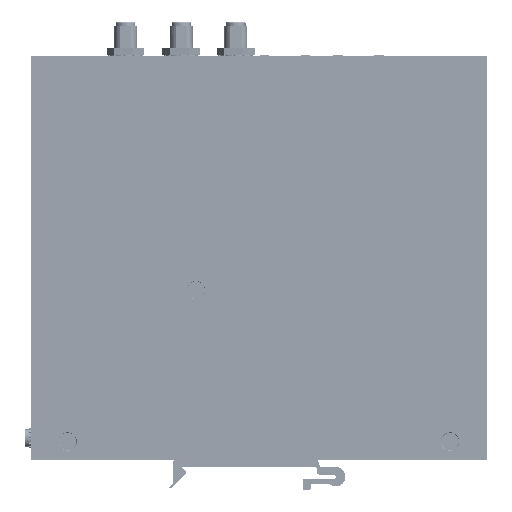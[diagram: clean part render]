
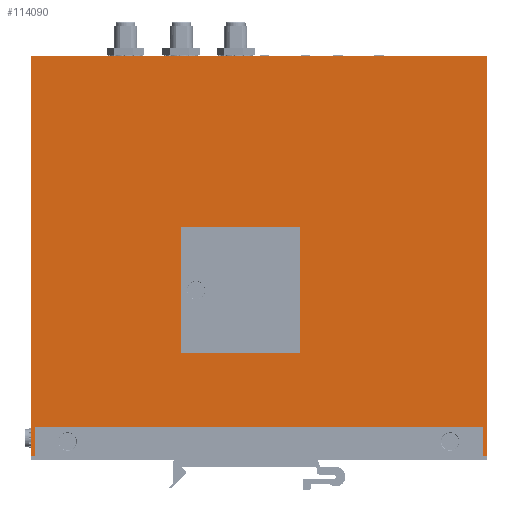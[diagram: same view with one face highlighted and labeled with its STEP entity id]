
A CAD part, front view. The second image highlights one B-rep face of the part: STEP entity #114090.
In plain terms, the highlighted planar face has unit normal (0, -1, 0).
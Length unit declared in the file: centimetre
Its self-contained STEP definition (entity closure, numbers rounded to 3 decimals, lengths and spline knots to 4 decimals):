
#7622=VERTEX_POINT('',#157433);
#7623=VERTEX_POINT('',#157435);
#7624=VERTEX_POINT('',#157439);
#7627=VERTEX_POINT('',#157446);
#7640=VERTEX_POINT('',#157489);
#7641=VERTEX_POINT('',#157491);
#7643=VERTEX_POINT('',#157496);
#7644=VERTEX_POINT('',#157497);
#7645=VERTEX_POINT('',#157502);
#7647=VERTEX_POINT('',#157505);
#7852=VERTEX_POINT('',#158098);
#7853=VERTEX_POINT('',#158100);
#7854=VERTEX_POINT('',#158103);
#7856=VERTEX_POINT('',#158106);
#7860=VERTEX_POINT('',#158118);
#7861=VERTEX_POINT('',#158122);
#18762=VECTOR('',#129633,1.);
#18764=VECTOR('',#129636,1.);
#18767=VECTOR('',#129640,1.);
#18770=VECTOR('',#129644,1.);
#18789=VECTOR('',#129671,1.);
#18796=VECTOR('',#129679,1.);
#18836=VECTOR('',#129720,1.);
#18842=VECTOR('',#129727,1.);
#19065=VECTOR('',#130098,1.);
#19068=VECTOR('',#130101,1.);
#19075=VECTOR('',#130110,1.);
#19077=VECTOR('',#130113,1.);
#19078=VECTOR('',#130115,1.);
#19154=VECTOR('',#130229,1.);
#19155=VECTOR('',#130231,1.);
#33128=LINE('',#157434,#18762);
#33130=LINE('',#157438,#18764);
#33133=LINE('',#157445,#18767);
#33136=LINE('',#157450,#18770);
#33155=LINE('',#157490,#18789);
#33162=LINE('',#157504,#18796);
#33202=LINE('',#157583,#18836);
#33208=LINE('',#157594,#18842);
#33431=LINE('',#158099,#19065);
#33434=LINE('',#158105,#19068);
#33441=LINE('',#158119,#19075);
#33443=LINE('',#158123,#19077);
#33444=LINE('',#158125,#19078);
#33520=LINE('',#158275,#19154);
#33521=LINE('',#158277,#19155);
#47540=EDGE_CURVE('',#7623,#7622,#33128,.T.);
#47542=EDGE_CURVE('',#7624,#7623,#33130,.T.);
#47547=EDGE_CURVE('',#7627,#7624,#33133,.T.);
#47550=EDGE_CURVE('',#7622,#7627,#33136,.T.);
#47570=EDGE_CURVE('',#7640,#7641,#33155,.T.);
#47574=EDGE_CURVE('',#7643,#7644,#33155,.T.);
#47578=EDGE_CURVE('',#7647,#7645,#33162,.T.);
#47618=EDGE_CURVE('',#7643,#7647,#33202,.T.);
#47624=EDGE_CURVE('',#7645,#7641,#33208,.T.);
#47869=EDGE_CURVE('',#7853,#7852,#33431,.T.);
#47872=EDGE_CURVE('',#7856,#7854,#33434,.T.);
#47879=EDGE_CURVE('',#7852,#7860,#33441,.T.);
#47881=EDGE_CURVE('',#7856,#7861,#33443,.T.);
#47882=EDGE_CURVE('',#7860,#7861,#33444,.T.);
#47958=EDGE_CURVE('',#7640,#7853,#33520,.T.);
#47959=EDGE_CURVE('',#7644,#7854,#33521,.T.);
#65961=ORIENTED_EDGE('',*,*,#47540,.T.);
#65962=ORIENTED_EDGE('',*,*,#47550,.T.);
#65963=ORIENTED_EDGE('',*,*,#47547,.T.);
#65964=ORIENTED_EDGE('',*,*,#47542,.T.);
#65965=ORIENTED_EDGE('',*,*,#47624,.T.);
#65966=ORIENTED_EDGE('',*,*,#47570,.F.);
#65967=ORIENTED_EDGE('',*,*,#47958,.T.);
#65968=ORIENTED_EDGE('',*,*,#47869,.T.);
#65969=ORIENTED_EDGE('',*,*,#47879,.T.);
#65970=ORIENTED_EDGE('',*,*,#47882,.T.);
#65971=ORIENTED_EDGE('',*,*,#47881,.F.);
#65972=ORIENTED_EDGE('',*,*,#47872,.T.);
#65973=ORIENTED_EDGE('',*,*,#47959,.F.);
#65974=ORIENTED_EDGE('',*,*,#47574,.F.);
#65975=ORIENTED_EDGE('',*,*,#47618,.T.);
#65976=ORIENTED_EDGE('',*,*,#47578,.T.);
#99962=EDGE_LOOP('',(#65961,#65962,#65963,#65964));
#99963=EDGE_LOOP('',(#65965,#65966,#65967,#65968,#65969,#65970,#65971,#65972,
#65973,#65974,#65975,#65976));
#107066=FACE_BOUND('',#99962,.T.);
#107067=FACE_BOUND('',#99963,.T.);
#114090=ADVANCED_FACE('',(#107066,#107067),#194599,.T.);
#120527=AXIS2_PLACEMENT_3D('',#158276,#130230,$);
#129633=DIRECTION('',(-1.,0.,0.));
#129636=DIRECTION('',(0.,0.,-1.));
#129640=DIRECTION('',(1.,0.,0.));
#129644=DIRECTION('',(0.,0.,1.));
#129671=DIRECTION('',(-1.,0.,0.));
#129679=DIRECTION('',(1.,0.,0.));
#129720=DIRECTION('',(0.,0.,1.));
#129727=DIRECTION('',(0.,0.,-1.));
#130098=DIRECTION('',(-1.,0.,0.));
#130101=DIRECTION('',(1.,0.,0.));
#130110=DIRECTION('',(0.,0.,1.));
#130113=DIRECTION('',(0.,0.,1.));
#130115=DIRECTION('',(-1.,0.,0.));
#130229=DIRECTION('',(0.,0.,1.));
#130230=DIRECTION('',(0.,-1.,0.));
#130231=DIRECTION('',(0.,0.,1.));
#157433=CARTESIAN_POINT('',(4.1,0.,2.8));
#157434=CARTESIAN_POINT('',(5.96,0.,2.8));
#157435=CARTESIAN_POINT('',(7.32,0.,2.8));
#157438=CARTESIAN_POINT('',(7.32,0.,2.2625));
#157439=CARTESIAN_POINT('',(7.32,0.,6.25));
#157445=CARTESIAN_POINT('',(5.96,0.,6.25));
#157446=CARTESIAN_POINT('',(4.1,0.,6.25));
#157450=CARTESIAN_POINT('',(4.1,0.,2.2625));
#157489=CARTESIAN_POINT('',(12.42,0.,0.));
#157490=CARTESIAN_POINT('',(12.42,0.,0.));
#157491=CARTESIAN_POINT('',(12.32,0.,0.));
#157496=CARTESIAN_POINT('',(0.1,0.,0.));
#157497=CARTESIAN_POINT('',(0.,0.,0.));
#157502=CARTESIAN_POINT('',(12.32,0.,0.8));
#157504=CARTESIAN_POINT('',(6.21,0.,0.8));
#157505=CARTESIAN_POINT('',(0.1,0.,0.8));
#157583=CARTESIAN_POINT('',(0.1,0.,0.2));
#157594=CARTESIAN_POINT('',(12.32,0.,0.2));
#158098=CARTESIAN_POINT('',(12.4196,0.,10.8));
#158099=CARTESIAN_POINT('',(12.42,0.,10.8));
#158100=CARTESIAN_POINT('',(12.42,0.,10.8));
#158103=CARTESIAN_POINT('',(0.,0.,10.8));
#158105=CARTESIAN_POINT('',(-0.0001,0.,10.8));
#158106=CARTESIAN_POINT('',(-0.0001,0.,10.8));
#158118=CARTESIAN_POINT('',(12.4196,0.,10.9));
#158119=CARTESIAN_POINT('',(12.4196,0.,10.8));
#158122=CARTESIAN_POINT('',(-0.0001,0.,10.9));
#158123=CARTESIAN_POINT('',(-0.0001,0.,10.8));
#158125=CARTESIAN_POINT('',(-0.0001,0.,10.9));
#158275=CARTESIAN_POINT('',(12.42,0.,0.));
#158276=CARTESIAN_POINT('',(6.21,0.,0.));
#158277=CARTESIAN_POINT('',(0.,0.,0.));
#194599=PLANE('',#120527);
